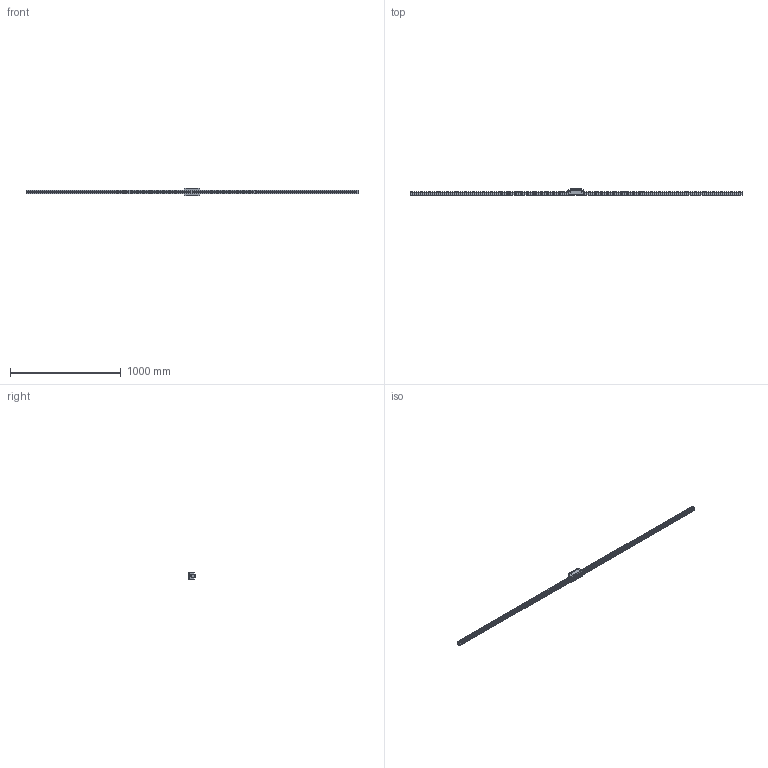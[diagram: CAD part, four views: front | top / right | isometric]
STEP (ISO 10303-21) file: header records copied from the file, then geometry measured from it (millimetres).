
FILE_DESCRIPTION(/* description */ ('STEP AP214'),/* implementation_level */ '2;1');
FILE_NAME(/* name */ 'HDR35LR1SS-3000L_G20_0_B-M6F_1430-25_0_0_01',/* time_stamp */ '2023-06-30T12:51:07+02:00',/* author */ ('License CC BY-ND 4.0'),/* organization */ ('CADENAS'),/* preprocessor_version */ 'ST-DEVELOPER v19.3',/* originating_system */ 'PARTsolutions',/* authorisation */ ' ');
FILE_SCHEMA (('AUTOMOTIVE_DESIGN {1 0 10303 214 3 1 1}'));
Length unit declared in the file: millimetre
Products named in the file (4): HDR35LR1SS-3000L_G20_0_B-M6F_1430-25_0_0_01; hsr_ftht_B-M6F_grease_nipple_joint; HDR35LRSSB-M6F Slider-1; HDR35LR1300020 Rail
Assembly tree (3 placements, depth 2):
  HDR35LR1SS-3000L_G20_0_B-M6F_1430-25_0_0_01
    hsr_ftht_B-M6F_grease_nipple_joint
    HDR35LRSSB-M6F Slider-1
    HDR35LR1300020 Rail
Bounding box: 3000 x 55 x 70 mm (x, y, z)
Volume: 2845654.2 mm3; surface area: 496972.1 mm2
Topology: 3 solids, 3 shells, 442 faces, 1138 edges, 709 vertices
Faces by surface type: plane 268, cylinder 144, cone 25, sphere 3, torus 2
Full cylindrical faces by diameter (mm): 4.917 x2, 5.2 x4, 6 x1, 6.647 x6, 8 x1, 9 x38, 10 x2, 14 x38
Entity records: 13087 total; most frequent: DIRECTION 2382, CARTESIAN_POINT 2257, ORIENTED_EDGE 2016, EDGE_CURVE 1008, AXIS2_PLACEMENT_3D 952, VERTEX_POINT 703, FACE_BOUND 649, EDGE_LOOP 641
